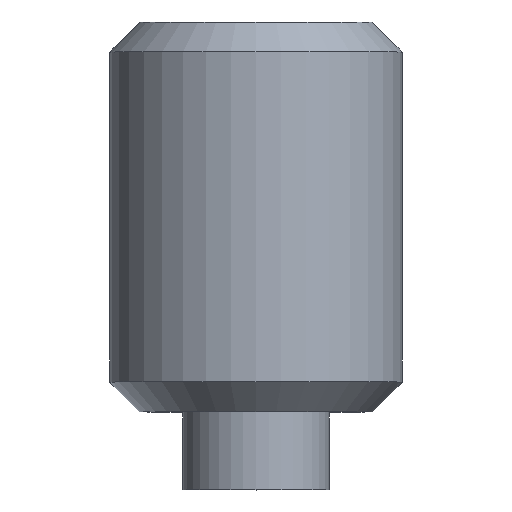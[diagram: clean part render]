
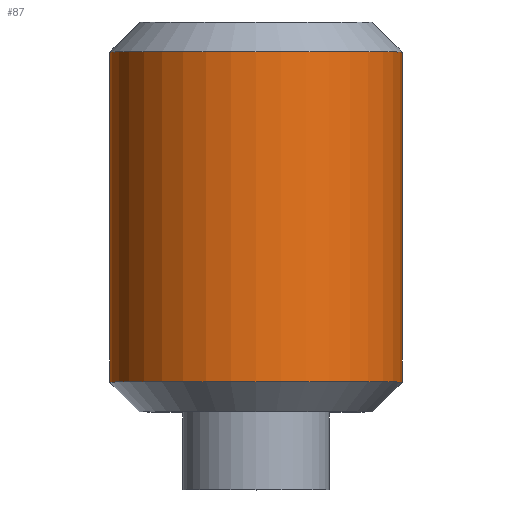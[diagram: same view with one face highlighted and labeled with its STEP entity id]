
A CAD part, top view. The second image highlights one B-rep face of the part: STEP entity #87.
In plain terms, the highlighted cylindrical face has radius 1.5 mm (diameter 3 mm), a full revolution.
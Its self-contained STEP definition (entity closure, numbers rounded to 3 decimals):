
#87 = ADVANCED_FACE( '', ( #118, #119 ), #120, .T. );
#118 = FACE_OUTER_BOUND( '', #152, .T. );
#119 = FACE_OUTER_BOUND( '', #153, .T. );
#120 = CYLINDRICAL_SURFACE( '', #154, 1.5 );
#152 = EDGE_LOOP( '', ( #238 ) );
#153 = EDGE_LOOP( '', ( #239 ) );
#154 = AXIS2_PLACEMENT_3D( '', #240, #241, #242 );
#238 = ORIENTED_EDGE( '', *, *, #270, .F. );
#239 = ORIENTED_EDGE( '', *, *, #271, .T. );
#240 = CARTESIAN_POINT( '', ( 0., 0., 0. ) );
#241 = DIRECTION( '', ( 0., 1., 0. ) );
#242 = DIRECTION( '', ( 0., 0., -1. ) );
#270 = EDGE_CURVE( '', #310, #310, #311, .T. );
#271 = EDGE_CURVE( '', #312, #312, #313, .T. );
#310 = VERTEX_POINT( '', #370 );
#311 = CIRCLE( '', #371, 1.5 );
#312 = VERTEX_POINT( '', #372 );
#313 = CIRCLE( '', #373, 1.5 );
#370 = CARTESIAN_POINT( '', ( 0., 1.107, -1.5 ) );
#371 = AXIS2_PLACEMENT_3D( '', #404, #405, #406 );
#372 = CARTESIAN_POINT( '', ( 0., 4.494, -1.5 ) );
#373 = AXIS2_PLACEMENT_3D( '', #407, #408, #409 );
#404 = CARTESIAN_POINT( '', ( 0., 1.107, 0. ) );
#405 = DIRECTION( '', ( 0., -1., 0. ) );
#406 = DIRECTION( '', ( 0., 0., -1. ) );
#407 = CARTESIAN_POINT( '', ( 0., 4.494, 0. ) );
#408 = DIRECTION( '', ( 0., -1., 0. ) );
#409 = DIRECTION( '', ( 0., 0., -1. ) );
